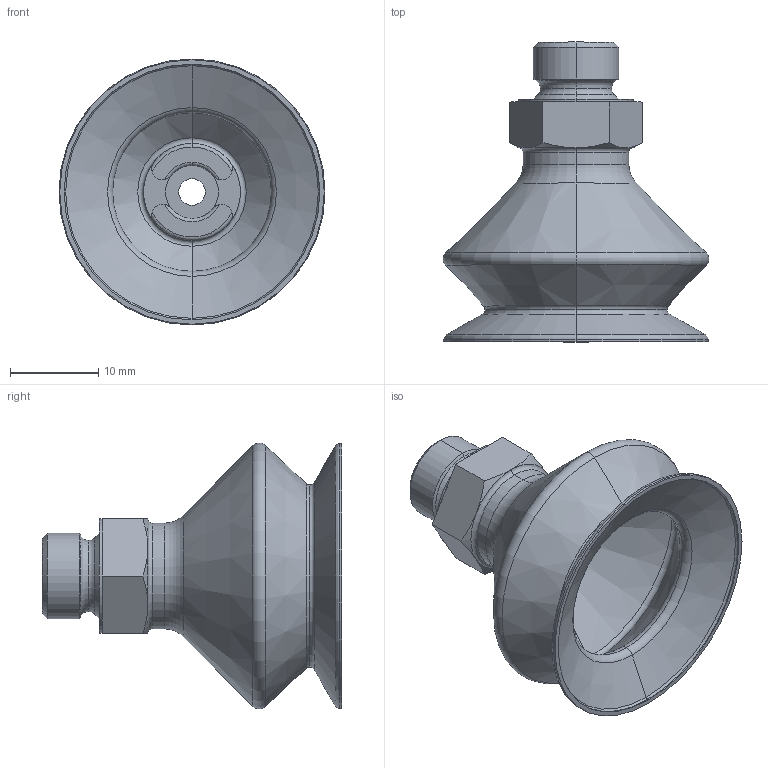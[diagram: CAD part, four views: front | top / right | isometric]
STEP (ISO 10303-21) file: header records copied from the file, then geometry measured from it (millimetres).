
FILE_DESCRIPTION (( 'STEP AP203' ), '1' );
FILE_NAME ('ZASB-30-1_8-SI.STEP', '2022-03-14T17:59:30', ( '' ), ( '' ), 'SwSTEP 2.0', 'SolidWorks 2019', '' );
FILE_SCHEMA (( 'CONFIG_CONTROL_DESIGN' ));
Length unit declared in the file: millimetre
Products named in the file (1): ZASB-30-1_8-SI
Bounding box: 30.17 x 34 x 30.17 mm (x, y, z)
Volume: 4090.2 mm3; surface area: 4792.1 mm2
Topology: 1 solids, 1 shells, 98 faces, 216 edges, 122 vertices
Faces by surface type: torus 32, cone 24, cylinder 22, plane 20
Entity records: 2843 total; most frequent: CARTESIAN_POINT 553, DIRECTION 528, ORIENTED_EDGE 432, AXIS2_PLACEMENT_3D 233, EDGE_CURVE 216, CIRCLE 134, VERTEX_POINT 122, EDGE_LOOP 102
